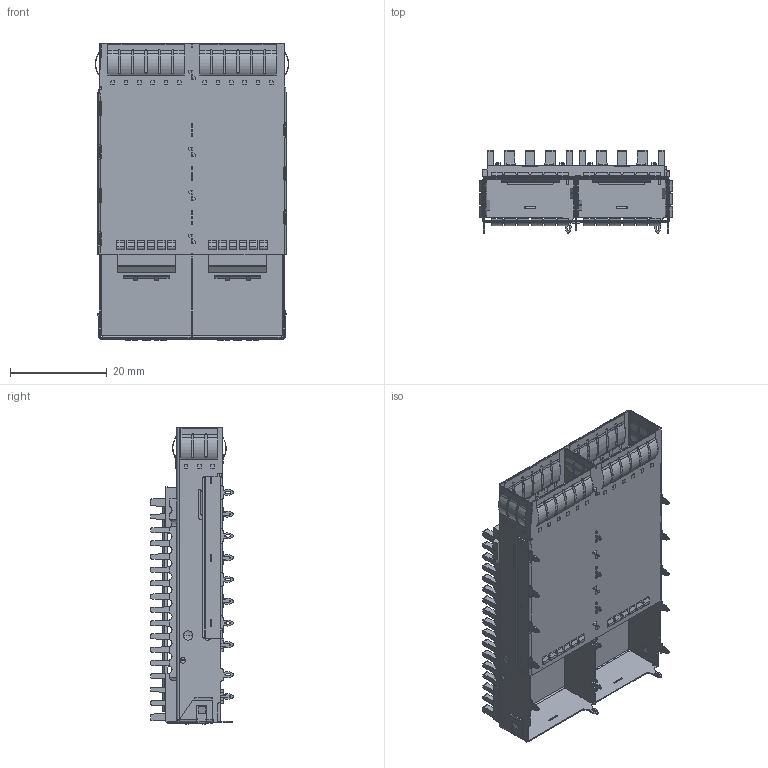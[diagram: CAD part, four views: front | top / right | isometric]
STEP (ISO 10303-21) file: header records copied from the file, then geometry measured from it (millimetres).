
FILE_DESCRIPTION(/* description */ (''),/* implementation_level */ '2;1');
FILE_NAME(/* name */ 'QSFP28 1X2带散热器15.1 后脚_3D.stp',/* time_stamp */ '2025-09-19T11:18:13+08:00',/* author */ (''),/* organization */ (''),/* preprocessor_version */ 'ST-DEVELOPER v16.7',/* originating_system */ 'SIEMENS PLM Software NX 1847',/* authorisation */ '');
FILE_SCHEMA (('AUTOMOTIVE_DESIGN { 1 0 10303 214 3 1 1 1 }'));
Products named in the file (1): Admi2FB449A1tg4l
Bounding box: 39.91 x 17.15 x 61.37 mm (x, y, z)
Volume: 6174.3 mm3; surface area: 18480.4 mm2
Topology: 1 solids, 4 shells, 4703 faces, 12797 edges, 8067 vertices
Faces by surface type: plane 2877, cylinder 1615, bspline 173, sphere 32, torus 6
Entity records: 156015 total; most frequent: CARTESIAN_POINT 35688, ORIENTED_EDGE 25578, DIRECTION 25051, EDGE_CURVE 12789, LINE 8371, VECTOR 8371, AXIS2_PLACEMENT_3D 8340, VERTEX_POINT 8067
